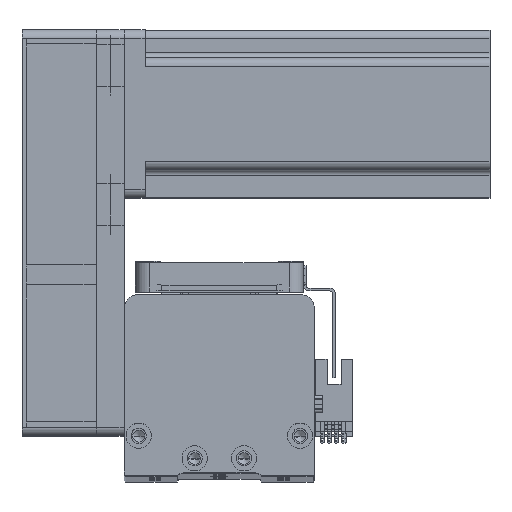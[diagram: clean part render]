
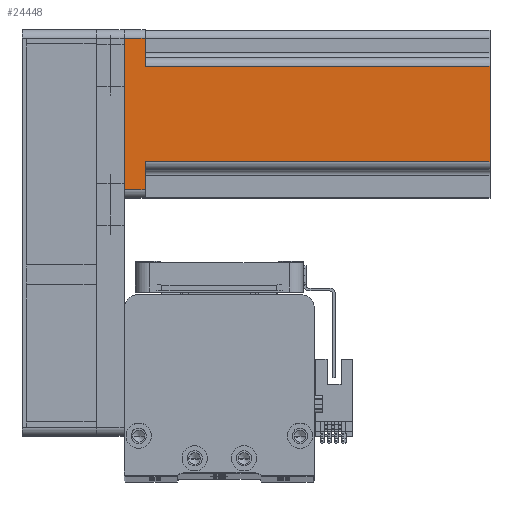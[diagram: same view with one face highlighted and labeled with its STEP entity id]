
A CAD part, top view. The second image highlights one B-rep face of the part: STEP entity #24448.
In plain terms, the highlighted planar face has unit normal (0, 0, 1) as drawn and (0, 1, 0) by its records, which use the part's own axes.
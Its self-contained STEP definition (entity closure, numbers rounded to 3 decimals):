
#1488 = CARTESIAN_POINT ( 'NONE',  ( 27., 30., 130.7 ) ) ;
#1521 = EDGE_CURVE ( 'NONE', #3390, #16657, #21307, .T. ) ;
#2892 = ORIENTED_EDGE ( 'NONE', *, *, #22805, .F. ) ;
#3199 = EDGE_CURVE ( 'NONE', #45814, #37992, #22852, .T. ) ;
#3390 = VERTEX_POINT ( 'NONE', #15098 ) ;
#5369 = DIRECTION ( 'NONE',  ( 0., 0., -1. ) ) ;
#5382 = AXIS2_PLACEMENT_3D ( 'NONE', #30163, #7313, #34000 ) ;
#5483 = EDGE_CURVE ( 'NONE', #18706, #30001, #26426, .T. ) ;
#6100 = VECTOR ( 'NONE', #13335, 1000. ) ;
#6419 = LINE ( 'NONE', #11887, #44512 ) ;
#6962 = DIRECTION ( 'NONE',  ( -1., 0., 0. ) ) ;
#7313 = DIRECTION ( 'NONE',  ( 0., -1., 0. ) ) ;
#8272 = LINE ( 'NONE', #18058, #37481 ) ;
#8921 = EDGE_CURVE ( 'NONE', #15750, #42931, #19799, .T. ) ;
#9881 = ORIENTED_EDGE ( 'NONE', *, *, #12335, .F. ) ;
#11887 = CARTESIAN_POINT ( 'NONE',  ( 30., 30., 130.7 ) ) ;
#12335 = EDGE_CURVE ( 'NONE', #15750, #37992, #43457, .T. ) ;
#13335 = DIRECTION ( 'NONE',  ( 0., 0., 1. ) ) ;
#15098 = CARTESIAN_POINT ( 'NONE',  ( -17., 30., 7.5 ) ) ;
#15108 = DIRECTION ( 'NONE',  ( 0., 0., 1. ) ) ;
#15750 = VERTEX_POINT ( 'NONE', #24519 ) ;
#16143 = CARTESIAN_POINT ( 'NONE',  ( -17., 30., 130.7 ) ) ;
#16521 = ORIENTED_EDGE ( 'NONE', *, *, #3199, .T. ) ;
#16657 = VERTEX_POINT ( 'NONE', #42759 ) ;
#17350 = ORIENTED_EDGE ( 'NONE', *, *, #5483, .T. ) ;
#18058 = CARTESIAN_POINT ( 'NONE',  ( 30., 30., 0. ) ) ;
#18201 = DIRECTION ( 'NONE',  ( -1., 0., 0. ) ) ;
#18521 = CARTESIAN_POINT ( 'NONE',  ( 20., 30., 7.5 ) ) ;
#18706 = VERTEX_POINT ( 'NONE', #24686 ) ;
#19799 = LINE ( 'NONE', #1488, #38794 ) ;
#21016 = CARTESIAN_POINT ( 'NONE',  ( -27., 30., 130.7 ) ) ;
#21307 = LINE ( 'NONE', #16143, #40296 ) ;
#22067 = ORIENTED_EDGE ( 'NONE', *, *, #8921, .T. ) ;
#22805 = EDGE_CURVE ( 'NONE', #45814, #16657, #6419, .T. ) ;
#22852 = LINE ( 'NONE', #34850, #32979 ) ;
#23275 = VECTOR ( 'NONE', #6962, 1000. ) ;
#23380 = DIRECTION ( 'NONE',  ( 1., 0., 0. ) ) ;
#23741 = EDGE_CURVE ( 'NONE', #42931, #18706, #8272, .T. ) ;
#23913 = CARTESIAN_POINT ( 'NONE',  ( 27., 30., 0. ) ) ;
#24448 = ADVANCED_FACE ( 'NONE', ( #36788 ), #37638, .F. ) ;
#24519 = CARTESIAN_POINT ( 'NONE',  ( 27., 30., 7.5 ) ) ;
#24686 = CARTESIAN_POINT ( 'NONE',  ( -27., 30., 0. ) ) ;
#25198 = ORIENTED_EDGE ( 'NONE', *, *, #46720, .T. ) ;
#26426 = LINE ( 'NONE', #21016, #6100 ) ;
#27195 = CARTESIAN_POINT ( 'NONE',  ( -20., 30., 7.5 ) ) ;
#27970 = CARTESIAN_POINT ( 'NONE',  ( 17., 30., 7.5 ) ) ;
#29429 = CARTESIAN_POINT ( 'NONE',  ( 17., 30., 130.7 ) ) ;
#30001 = VERTEX_POINT ( 'NONE', #45639 ) ;
#30163 = CARTESIAN_POINT ( 'NONE',  ( 30., 30., 130.7 ) ) ;
#30371 = VECTOR ( 'NONE', #23380, 1000. ) ;
#32979 = VECTOR ( 'NONE', #46071, 1000. ) ;
#33414 = ORIENTED_EDGE ( 'NONE', *, *, #23741, .T. ) ;
#34000 = DIRECTION ( 'NONE',  ( 1., 0., 0. ) ) ;
#34850 = CARTESIAN_POINT ( 'NONE',  ( 17., 30., 130.7 ) ) ;
#35358 = EDGE_LOOP ( 'NONE', ( #25198, #37533, #2892, #16521, #9881, #22067, #33414, #17350 ) ) ;
#36788 = FACE_OUTER_BOUND ( 'NONE', #35358, .T. ) ;
#37481 = VECTOR ( 'NONE', #18201, 1000. ) ;
#37533 = ORIENTED_EDGE ( 'NONE', *, *, #1521, .T. ) ;
#37638 = PLANE ( 'NONE',  #5382 ) ;
#37992 = VERTEX_POINT ( 'NONE', #27970 ) ;
#38794 = VECTOR ( 'NONE', #5369, 1000. ) ;
#40296 = VECTOR ( 'NONE', #15108, 1000. ) ;
#40437 = LINE ( 'NONE', #27195, #30371 ) ;
#42759 = CARTESIAN_POINT ( 'NONE',  ( -17., 30., 130.7 ) ) ;
#42931 = VERTEX_POINT ( 'NONE', #23913 ) ;
#43457 = LINE ( 'NONE', #18521, #23275 ) ;
#44512 = VECTOR ( 'NONE', #46297, 1000. ) ;
#45639 = CARTESIAN_POINT ( 'NONE',  ( -27., 30., 7.5 ) ) ;
#45814 = VERTEX_POINT ( 'NONE', #29429 ) ;
#46071 = DIRECTION ( 'NONE',  ( 0., 0., -1. ) ) ;
#46297 = DIRECTION ( 'NONE',  ( -1., 0., 0. ) ) ;
#46720 = EDGE_CURVE ( 'NONE', #30001, #3390, #40437, .T. ) ;
